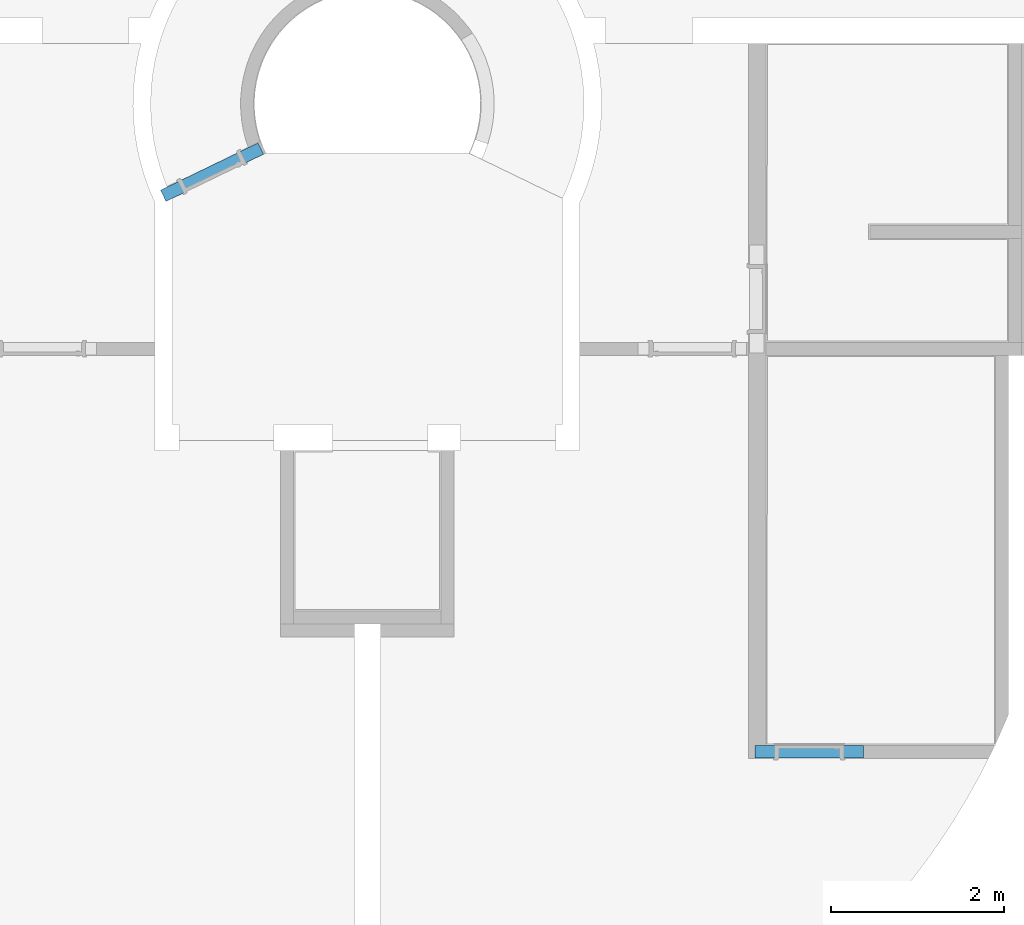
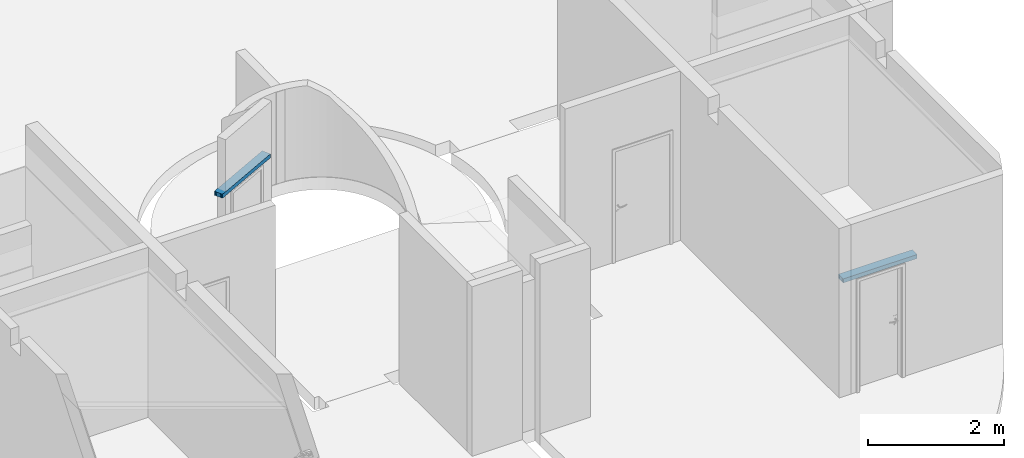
# One storey, part 4 of 21: 2 beams.
"""IFC4 building model written with IfcOpenShell, lengths in millimetres."""

from ifc_helpers import new_model, entity, si_unit, converted_unit, derived_unit, direction, frame, origin_with_axes, place, context, subcontext, project, spatial, polygons, source, transform, mapped, type_object, element, save


model = new_model("IFC4")

# Units and contexts
model_context = context("Model", 3, precision=0.01, world=origin_with_axes(), true_north=direction((0.0, 1.0)))
body_context = subcontext(model_context, "Body", "Model", "MODEL_VIEW")
ifc_project = project(units=[si_unit("LENGTHUNIT", "METRE", prefix="MILLI"), si_unit("AREAUNIT", "SQUARE_METRE"), si_unit("VOLUMEUNIT", "CUBIC_METRE"), converted_unit("PLANEANGLEUNIT", "DEGREE", entity("IfcPlaneAngleMeasure", 0.0174532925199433), si_unit("PLANEANGLEUNIT", "RADIAN"), dimensions=[0, 0, 0, 0, 0, 0, 0]), converted_unit("TIMEUNIT", "Year", entity("IfcTimeMeasure", 31557600.0), si_unit("TIMEUNIT", "SECOND"), dimensions=[0, 0, 1, 0, 0, 0, 0]), si_unit("MASSUNIT", "GRAM", prefix="KILO"), si_unit("THERMODYNAMICTEMPERATUREUNIT", "DEGREE_CELSIUS"), si_unit("LUMINOUSINTENSITYUNIT", "LUMEN"), si_unit("ENERGYUNIT", "JOULE", prefix="MEGA"), derived_unit("THERMALCONDUCTANCEUNIT", [(si_unit("POWERUNIT", "WATT"), 1), (si_unit("LENGTHUNIT", "METRE"), -1), (si_unit("THERMODYNAMICTEMPERATUREUNIT", "KELVIN"), -1)]), derived_unit("SPECIFICHEATCAPACITYUNIT", [(si_unit("ENERGYUNIT", "JOULE"), 1), (si_unit("MASSUNIT", "GRAM", prefix="KILO"), -1), (si_unit("THERMODYNAMICTEMPERATUREUNIT", "KELVIN"), -1)]), derived_unit("MASSDENSITYUNIT", [(si_unit("MASSUNIT", "GRAM", prefix="KILO"), 1), (si_unit("VOLUMEUNIT", "CUBIC_METRE"), -1)])], contexts=[model_context])

# Site, building, storey
site_placement = place(None, origin_with_axes())
site = spatial("IfcSite", under=ifc_project, at=site_placement, Name="Exteriér", CompositionType="ELEMENT")
building_placement = place(site_placement, origin_with_axes())
building = spatial("IfcBuilding", under=site, at=building_placement, Name="Univerzitní lezecké centrum", CompositionType="ELEMENT")
storey_placement = place(building_placement, frame((0.0, 0.0, -3350.0), z_axis=(0.0, 0.0, 1.0), x_axis=(1.0, 0.0, 0.0)))
storey = spatial("IfcBuildingStorey", under=building, at=storey_placement, Name="1.PP", CompositionType="ELEMENT", Elevation=-3350.0)

# Beams
beam_type = type_object("IfcBeamType", Name="PTH Překlad KP 11,5 a 14,5", PredefinedType="BEAM")
shared_shape = source(origin_with_axes(), body_context, "Body", "Tessellation", [
    polygons([(-625.0, 44.3486623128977, 71.00000000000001), (-625.0, 0.0, 71.00000000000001), (625.0, 0.0, 71.00000000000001), (625.0, 44.34866231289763, 71.00000000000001), (-625.0, 44.34866231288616, 36.49999605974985), (-625.0, 46.47223501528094, 31.73716465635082), (-625.0, 49.39641603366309, 27.4240948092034), (-625.0, 53.02998777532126, 23.69532943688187), (-625.0, 57.25960374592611, 20.66718452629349), (-625.0, 61.95332430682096, 18.4341207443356), (-625.0, 66.96473243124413, 17.06579680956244), (-625.0, 72.13750107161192, 16.60489654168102), (-625.0, 77.31026966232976, 17.06579737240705), (-625.0, 82.32167763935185, 18.43412185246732), (-625.0, 87.01539795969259, 20.66718614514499), (-625.0, 91.24501360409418, 23.69533151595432), (-625.0, 94.87858494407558, 27.42409728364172), (-625.0, 97.80276549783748, 31.7371674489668), (-625.0, 99.92633768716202, 36.49999908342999), (-625.0, 99.926337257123, 71.00000000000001), (-625.0, 144.274998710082, 71.0), (-625.0, 144.274998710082, 0.0), (-625.0, 0.0, 0.0), (-625.0, 11.4425, 10.49963740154), (-625.0, 33.3325, 10.49963740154), (-625.0, 33.3325, 30.49963740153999), (-625.0, 11.4425, 30.49963740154), (-625.0, 11.4425, 40.5), (-625.0, 33.3325, 40.5), (-625.0, 33.33250000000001, 60.5), (-625.0, 11.4425, 60.5), (-625.0, 132.83136377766, 10.49963740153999), (-625.0, 132.83136377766, 30.49963740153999), (-625.0, 110.94136377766, 30.49963740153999), (-625.0, 110.94136377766, 10.49963740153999), (-625.0, 110.94136377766, 60.49999999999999), (-625.0, 110.94136377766, 40.49999999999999), (-625.0, 132.83136377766, 40.49999999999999), (-625.0, 132.83136377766, 60.49999999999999), (625.0, 0.0, 0.0), (625.0, 144.2749987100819, 0.0), (625.0, 144.2749987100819, 71.0), (625.0, 99.92633725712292, 71.00000000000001), (625.0, 99.92633768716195, 36.49999908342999), (625.0, 97.80276549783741, 31.7371674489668), (625.0, 94.87858494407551, 27.42409728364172), (625.0, 91.24501360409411, 23.69533151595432), (625.0, 87.01539795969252, 20.66718614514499), (625.0, 82.32167763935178, 18.43412185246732), (625.0, 77.31026966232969, 17.06579737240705), (625.0, 72.13750107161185, 16.60489654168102), (625.0, 66.96473243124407, 17.06579680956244), (625.0, 61.95332430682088, 18.4341207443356), (625.0, 57.25960374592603, 20.66718452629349), (625.0, 53.02998777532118, 23.69532943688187), (625.0, 49.39641603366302, 27.4240948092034), (625.0, 46.47223501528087, 31.73716465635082), (625.0, 44.34866231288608, 36.49999605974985), (625.0, 11.44249999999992, 10.49963740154), (625.0, 11.44249999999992, 30.49963740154), (625.0, 33.33249999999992, 30.49963740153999), (625.0, 33.33249999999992, 10.49963740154), (625.0, 11.44249999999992, 40.5), (625.0, 11.44249999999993, 60.5), (625.0, 33.33249999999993, 60.5), (625.0, 33.33249999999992, 40.5), (625.0, 132.8313637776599, 10.49963740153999), (625.0, 110.9413637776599, 10.49963740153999), (625.0, 110.9413637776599, 30.49963740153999), (625.0, 132.8313637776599, 30.49963740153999), (625.0, 110.9413637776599, 60.49999999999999), (625.0, 132.8313637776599, 60.49999999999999), (625.0, 132.8313637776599, 40.49999999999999), (625.0, 110.9413637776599, 40.49999999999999)], [[[1, 2, 3, 4]], [[1, 5, 6, 7, 8, 9, 10, 11, 12, 13, 14, 15, 16, 17, 18, 19, 20, 21, 22, 23, 2], [24, 25, 26, 27], [28, 29, 30, 31], [32, 33, 34, 35], [36, 37, 38, 39]], [[2, 23, 40, 3]], [[4, 3, 40, 41, 42, 43, 44, 45, 46, 47, 48, 49, 50, 51, 52, 53, 54, 55, 56, 57, 58], [59, 60, 61, 62], [63, 64, 65, 66], [67, 68, 69, 70], [71, 72, 73, 74]], [[5, 1, 4, 58]], [[6, 5, 58, 57]], [[7, 6, 57, 56]], [[8, 7, 56, 55]], [[9, 8, 55, 54]], [[10, 9, 54, 53]], [[11, 10, 53, 52]], [[12, 11, 52, 51]], [[13, 12, 51, 50]], [[14, 13, 50, 49]], [[15, 14, 49, 48]], [[16, 15, 48, 47]], [[17, 16, 47, 46]], [[18, 17, 46, 45]], [[19, 18, 45, 44]], [[20, 19, 44, 43]], [[21, 20, 43, 42]], [[22, 21, 42, 41]], [[23, 22, 41, 40]], [[25, 24, 59, 62]], [[26, 25, 62, 61]], [[27, 26, 61, 60]], [[24, 27, 60, 59]], [[29, 28, 63, 66]], [[30, 29, 66, 65]], [[31, 30, 65, 64]], [[28, 31, 64, 63]], [[33, 32, 67, 70]], [[34, 33, 70, 69]], [[35, 34, 69, 68]], [[32, 35, 68, 67]], [[37, 36, 71, 74]], [[38, 37, 74, 73]], [[39, 38, 73, 72]], [[36, 39, 72, 71]]], closed=True),
    polygons([(-625.0, 44.34866231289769, 36.5), (-625.0, 46.47223492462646, 31.73716874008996), (625.0, 46.47223492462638, 31.73716874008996), (625.0, 44.34866231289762, 36.5), (-625.0, 44.3486623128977, 71.00000000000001), (-625.0, 99.926337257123, 71.00000000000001), (-625.0, 99.92633725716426, 36.50000000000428), (-625.0, 97.80276464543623, 31.7371687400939), (-625.0, 94.87858377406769, 27.42409899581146), (-625.0, 91.24501222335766, 23.69533367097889), (-625.0, 87.0153964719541, 20.66718874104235), (-625.0, 82.32167614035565, 18.43412486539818), (-625.0, 77.31026823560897, 17.06580075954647), (-625.0, 72.1374997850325, 16.60490024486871), (-625.0, 66.96473133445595, 17.06580075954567), (-625.0, 61.95332342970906, 18.4341248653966), (-625.0, 57.25960309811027, 20.66718874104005), (-625.0, 53.02998734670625, 23.69533367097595), (-625.0, 49.39641579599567, 27.42409899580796), (-625.0, 78.10749978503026, 42.49999925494), (-625.0, 78.01680207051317, 43.54188832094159), (-625.0, 77.74746473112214, 44.55212011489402), (-625.0, 77.30767144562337, 45.49999925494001), (-625.0, 76.71078511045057, 46.35672491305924), (-625.0, 75.97494181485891, 47.09626591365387), (-625.0, 75.12249978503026, 47.69615167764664), (-625.0, 74.17936004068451, 48.13815497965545), (-625.0, 73.17417940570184, 48.40884577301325), (-625.0, 72.13749978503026, 48.49999925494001), (-625.0, 71.1008201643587, 48.40884577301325), (-625.0, 70.09563952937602, 48.13815497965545), (-625.0, 69.15249978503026, 47.69615167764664), (-625.0, 68.30005775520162, 47.09626591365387), (-625.0, 67.56421445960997, 46.35672491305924), (-625.0, 66.96732812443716, 45.49999925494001), (-625.0, 66.5275348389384, 44.55212011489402), (-625.0, 66.25819749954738, 43.54188832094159), (-625.0, 66.16749978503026, 42.49999925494), (-625.0, 66.25819749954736, 41.45811018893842), (-625.0, 66.52753483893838, 40.44787839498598), (-625.0, 66.96732812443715, 39.49999925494), (-625.0, 67.56421445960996, 38.64327359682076), (-625.0, 68.3000577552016, 37.90373259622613), (-625.0, 69.15249978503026, 37.30384683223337), (-625.0, 70.09563952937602, 36.86184353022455), (-625.0, 71.1008201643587, 36.59115273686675), (-625.0, 72.13749978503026, 36.49999925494), (-625.0, 73.17417940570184, 36.59115273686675), (-625.0, 74.17936004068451, 36.86184353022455), (-625.0, 75.12249978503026, 37.30384683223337), (-625.0, 75.9749418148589, 37.90373259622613), (-625.0, 76.71078511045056, 38.64327359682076), (-625.0, 77.30767144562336, 39.49999925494), (-625.0, 77.74746473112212, 40.44787839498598), (-625.0, 78.01680207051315, 41.45811018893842), (625.0, 49.39641579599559, 27.42409899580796), (625.0, 53.02998734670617, 23.69533367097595), (625.0, 57.25960309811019, 20.66718874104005), (625.0, 61.95332342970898, 18.4341248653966), (625.0, 66.96473133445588, 17.06580075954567), (625.0, 72.13749978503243, 16.60490024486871), (625.0, 77.3102682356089, 17.06580075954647), (625.0, 82.32167614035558, 18.43412486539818), (625.0, 87.01539647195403, 20.66718874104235), (625.0, 91.24501222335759, 23.69533367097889), (625.0, 94.87858377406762, 27.42409899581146), (625.0, 97.80276464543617, 31.7371687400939), (625.0, 99.92633725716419, 36.50000000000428), (625.0, 99.92633725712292, 71.00000000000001), (625.0, 44.34866231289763, 71.00000000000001), (625.0, 78.10749978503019, 42.49999925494), (625.0, 78.01680207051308, 41.45811018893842), (625.0, 77.74746473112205, 40.44787839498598), (625.0, 77.30767144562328, 39.49999925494), (625.0, 76.71078511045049, 38.64327359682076), (625.0, 75.97494181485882, 37.90373259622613), (625.0, 75.12249978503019, 37.30384683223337), (625.0, 74.17936004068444, 36.86184353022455), (625.0, 73.17417940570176, 36.59115273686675), (625.0, 72.13749978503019, 36.49999925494), (625.0, 71.10082016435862, 36.59115273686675), (625.0, 70.09563952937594, 36.86184353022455), (625.0, 69.15249978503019, 37.30384683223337), (625.0, 68.30005775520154, 37.90373259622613), (625.0, 67.56421445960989, 38.64327359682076), (625.0, 66.96732812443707, 39.49999925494), (625.0, 66.52753483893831, 40.44787839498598), (625.0, 66.2581974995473, 41.45811018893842), (625.0, 66.16749978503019, 42.49999925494), (625.0, 66.25819749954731, 43.54188832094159), (625.0, 66.52753483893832, 44.55212011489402), (625.0, 66.96732812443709, 45.49999925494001), (625.0, 67.5642144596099, 46.35672491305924), (625.0, 68.30005775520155, 47.09626591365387), (625.0, 69.15249978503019, 47.69615167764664), (625.0, 70.09563952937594, 48.13815497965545), (625.0, 71.10082016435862, 48.40884577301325), (625.0, 72.13749978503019, 48.49999925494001), (625.0, 73.17417940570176, 48.40884577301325), (625.0, 74.17936004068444, 48.13815497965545), (625.0, 75.12249978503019, 47.69615167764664), (625.0, 75.97494181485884, 47.09626591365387), (625.0, 76.7107851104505, 46.35672491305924), (625.0, 77.3076714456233, 45.49999925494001), (625.0, 77.74746473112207, 44.55212011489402), (625.0, 78.0168020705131, 43.54188832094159)], [[[1, 2, 3, 4]], [[1, 5, 6, 7, 8, 9, 10, 11, 12, 13, 14, 15, 16, 17, 18, 19, 2], [20, 21, 22, 23, 24, 25, 26, 27, 28, 29, 30, 31, 32, 33, 34, 35, 36, 37, 38, 39, 40, 41, 42, 43, 44, 45, 46, 47, 48, 49, 50, 51, 52, 53, 54, 55]], [[2, 19, 56, 3]], [[4, 3, 56, 57, 58, 59, 60, 61, 62, 63, 64, 65, 66, 67, 68, 69, 70], [71, 72, 73, 74, 75, 76, 77, 78, 79, 80, 81, 82, 83, 84, 85, 86, 87, 88, 89, 90, 91, 92, 93, 94, 95, 96, 97, 98, 99, 100, 101, 102, 103, 104, 105, 106]], [[5, 1, 4, 70]], [[6, 5, 70, 69]], [[7, 6, 69, 68]], [[8, 7, 68, 67]], [[9, 8, 67, 66]], [[10, 9, 66, 65]], [[11, 10, 65, 64]], [[12, 11, 64, 63]], [[13, 12, 63, 62]], [[14, 13, 62, 61]], [[15, 14, 61, 60]], [[16, 15, 60, 59]], [[17, 16, 59, 58]], [[18, 17, 58, 57]], [[19, 18, 57, 56]], [[21, 20, 71, 106]], [[22, 21, 106, 105]], [[23, 22, 105, 104]], [[24, 23, 104, 103]], [[25, 24, 103, 102]], [[26, 25, 102, 101]], [[27, 26, 101, 100]], [[28, 27, 100, 99]], [[29, 28, 99, 98]], [[30, 29, 98, 97]], [[31, 30, 97, 96]], [[32, 31, 96, 95]], [[33, 32, 95, 94]], [[34, 33, 94, 93]], [[35, 34, 93, 92]], [[36, 35, 92, 91]], [[37, 36, 91, 90]], [[38, 37, 90, 89]], [[39, 38, 89, 88]], [[40, 39, 88, 87]], [[41, 40, 87, 86]], [[42, 41, 86, 85]], [[43, 42, 85, 84]], [[44, 43, 84, 83]], [[45, 44, 83, 82]], [[46, 45, 82, 81]], [[47, 46, 81, 80]], [[48, 47, 80, 79]], [[49, 48, 79, 78]], [[50, 49, 78, 77]], [[51, 50, 77, 76]], [[52, 51, 76, 75]], [[53, 52, 75, 74]], [[54, 53, 74, 73]], [[55, 54, 73, 72]], [[20, 55, 72, 71]]], closed=True),
    polygons([(-625.0, 66.16749978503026, 42.49999925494), (-625.0, 66.25819749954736, 41.45811018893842), (625.0, 66.2581974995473, 41.45811018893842), (625.0, 66.16749978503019, 42.49999925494), (-625.0, 66.25819749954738, 43.54188832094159), (-625.0, 66.5275348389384, 44.55212011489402), (-625.0, 66.96732812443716, 45.49999925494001), (-625.0, 67.56421445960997, 46.35672491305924), (-625.0, 68.30005775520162, 47.09626591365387), (-625.0, 69.15249978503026, 47.69615167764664), (-625.0, 70.09563952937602, 48.13815497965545), (-625.0, 71.1008201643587, 48.40884577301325), (-625.0, 72.13749978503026, 48.49999925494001), (-625.0, 73.17417940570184, 48.40884577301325), (-625.0, 74.17936004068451, 48.13815497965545), (-625.0, 75.12249978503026, 47.69615167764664), (-625.0, 75.97494181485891, 47.09626591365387), (-625.0, 76.71078511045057, 46.35672491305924), (-625.0, 77.30767144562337, 45.49999925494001), (-625.0, 77.74746473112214, 44.55212011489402), (-625.0, 78.01680207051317, 43.54188832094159), (-625.0, 78.10749978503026, 42.49999925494), (-625.0, 78.01680207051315, 41.45811018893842), (-625.0, 77.74746473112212, 40.44787839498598), (-625.0, 77.30767144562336, 39.49999925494), (-625.0, 76.71078511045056, 38.64327359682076), (-625.0, 75.9749418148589, 37.90373259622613), (-625.0, 75.12249978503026, 37.30384683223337), (-625.0, 74.17936004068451, 36.86184353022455), (-625.0, 73.17417940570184, 36.59115273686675), (-625.0, 72.13749978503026, 36.49999925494), (-625.0, 71.1008201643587, 36.59115273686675), (-625.0, 70.09563952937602, 36.86184353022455), (-625.0, 69.15249978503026, 37.30384683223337), (-625.0, 68.3000577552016, 37.90373259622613), (-625.0, 67.56421445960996, 38.64327359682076), (-625.0, 66.96732812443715, 39.49999925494), (-625.0, 66.52753483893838, 40.44787839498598), (625.0, 66.52753483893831, 40.44787839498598), (625.0, 66.96732812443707, 39.49999925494), (625.0, 67.56421445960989, 38.64327359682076), (625.0, 68.30005775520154, 37.90373259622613), (625.0, 69.15249978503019, 37.30384683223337), (625.0, 70.09563952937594, 36.86184353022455), (625.0, 71.10082016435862, 36.59115273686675), (625.0, 72.13749978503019, 36.49999925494), (625.0, 73.17417940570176, 36.59115273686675), (625.0, 74.17936004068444, 36.86184353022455), (625.0, 75.12249978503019, 37.30384683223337), (625.0, 75.97494181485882, 37.90373259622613), (625.0, 76.71078511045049, 38.64327359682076), (625.0, 77.30767144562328, 39.49999925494), (625.0, 77.74746473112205, 40.44787839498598), (625.0, 78.01680207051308, 41.45811018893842), (625.0, 78.10749978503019, 42.49999925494), (625.0, 78.0168020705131, 43.54188832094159), (625.0, 77.74746473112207, 44.55212011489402), (625.0, 77.3076714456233, 45.49999925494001), (625.0, 76.7107851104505, 46.35672491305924), (625.0, 75.97494181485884, 47.09626591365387), (625.0, 75.12249978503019, 47.69615167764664), (625.0, 74.17936004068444, 48.13815497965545), (625.0, 73.17417940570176, 48.40884577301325), (625.0, 72.13749978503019, 48.49999925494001), (625.0, 71.10082016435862, 48.40884577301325), (625.0, 70.09563952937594, 48.13815497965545), (625.0, 69.15249978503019, 47.69615167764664), (625.0, 68.30005775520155, 47.09626591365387), (625.0, 67.5642144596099, 46.35672491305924), (625.0, 66.96732812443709, 45.49999925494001), (625.0, 66.52753483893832, 44.55212011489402), (625.0, 66.25819749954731, 43.54188832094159)], [[[1, 2, 3, 4]], [[1, 5, 6, 7, 8, 9, 10, 11, 12, 13, 14, 15, 16, 17, 18, 19, 20, 21, 22, 23, 24, 25, 26, 27, 28, 29, 30, 31, 32, 33, 34, 35, 36, 37, 38, 2]], [[2, 38, 39, 3]], [[4, 3, 39, 40, 41, 42, 43, 44, 45, 46, 47, 48, 49, 50, 51, 52, 53, 54, 55, 56, 57, 58, 59, 60, 61, 62, 63, 64, 65, 66, 67, 68, 69, 70, 71, 72]], [[5, 1, 4, 72]], [[6, 5, 72, 71]], [[7, 6, 71, 70]], [[8, 7, 70, 69]], [[9, 8, 69, 68]], [[10, 9, 68, 67]], [[11, 10, 67, 66]], [[12, 11, 66, 65]], [[13, 12, 65, 64]], [[14, 13, 64, 63]], [[15, 14, 63, 62]], [[16, 15, 62, 61]], [[17, 16, 61, 60]], [[18, 17, 60, 59]], [[19, 18, 59, 58]], [[20, 19, 58, 57]], [[21, 20, 57, 56]], [[22, 21, 56, 55]], [[23, 22, 55, 54]], [[24, 23, 54, 53]], [[25, 24, 53, 52]], [[26, 25, 52, 51]], [[27, 26, 51, 50]], [[28, 27, 50, 49]], [[29, 28, 49, 48]], [[30, 29, 48, 47]], [[31, 30, 47, 46]], [[32, 31, 46, 45]], [[33, 32, 45, 44]], [[34, 33, 44, 43]], [[35, 34, 43, 42]], [[36, 35, 42, 41]], [[37, 36, 41, 40]], [[38, 37, 40, 39]]], closed=True),
])
for number, where, z_axis, x_axis, name in (
    (1, (7549.638343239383, -3700.000000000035, 2030.0), (0.0, 0.0, 1.0), (-1.0, 0.0, 0.0), "Pk01"),
    (2, (689.8274617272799, 2847.779815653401, 2030.0), (0.0, 0.0, 1.0), (0.9000398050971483, 0.4358076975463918, 0.0), "Pk01"),
):
    element("IfcBeam", number, at=place(storey_placement, frame(where, z_axis=z_axis, x_axis=x_axis)), inside=storey, type_object=beam_type, Name=name, PredefinedType="BEAM", context=body_context, shape_type="MappedRepresentation", body=[
        mapped(shared_shape, transform((0.0, 0.0, 0.0))),
    ])

save(model, "model.ifc")
